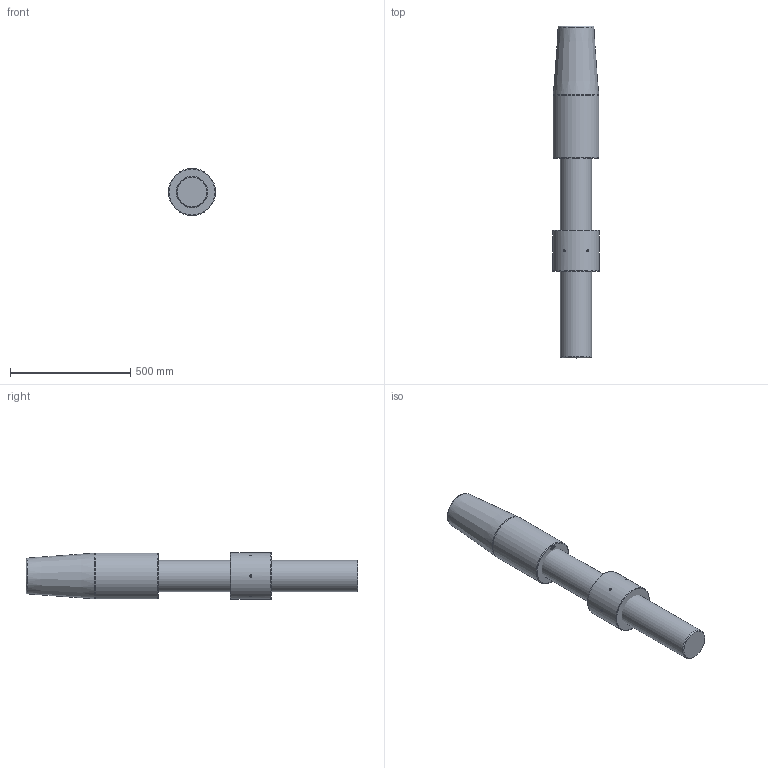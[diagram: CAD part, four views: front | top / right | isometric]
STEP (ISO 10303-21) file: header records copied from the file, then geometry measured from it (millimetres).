
FILE_DESCRIPTION(/* description */ (''),/* implementation_level */ '2;1');
FILE_NAME(/* name */ 'C:\Users\ranca\Desktop\CYM\ARRANGEMENT\CYM064 52 061 0.stp',/* time_stamp */ '2021-04-22T21:37:36+02:00',/* author */ ('ranca'),/* organization */ (''),/* preprocessor_version */ 'ST-DEVELOPER v16.13',/* originating_system */ 'Autodesk Inventor 2018',/* authorisation */ '');
FILE_SCHEMA (('AUTOMOTIVE_DESIGN { 1 0 10303 214 3 1 1 }'));
Length unit declared in the file: millimetre
Products named in the file (4): CYM064-52-061-0; CYM012-52-061-0_ROD; CYC064 52 065 0_CYL SOK_RH; CYM064-41-051-0
Assembly tree (3 placements, depth 2):
  CYM064-52-061-0
    CYM012-52-061-0_ROD
    CYC064 52 065 0_CYL SOK_RH
    CYM064-41-051-0
Bounding box: 195 x 1378 x 195 mm (x, y, z)
Volume: 32198287.5 mm3; surface area: 949896.3 mm2
Topology: 3 solids, 3 shells, 529 faces, 1417 edges, 942 vertices
Faces by surface type: bspline 269, plane 238, cone 11, cylinder 9, torus 2
Full cylindrical faces by diameter (mm): 10 x6, 130 x1, 190 x1, 195 x1
Entity records: 17956 total; most frequent: CARTESIAN_POINT 6582, ORIENTED_EDGE 2776, DIRECTION 1395, EDGE_CURVE 1388, VERTEX_POINT 936, LINE 817, VECTOR 817, EDGE_LOOP 600
